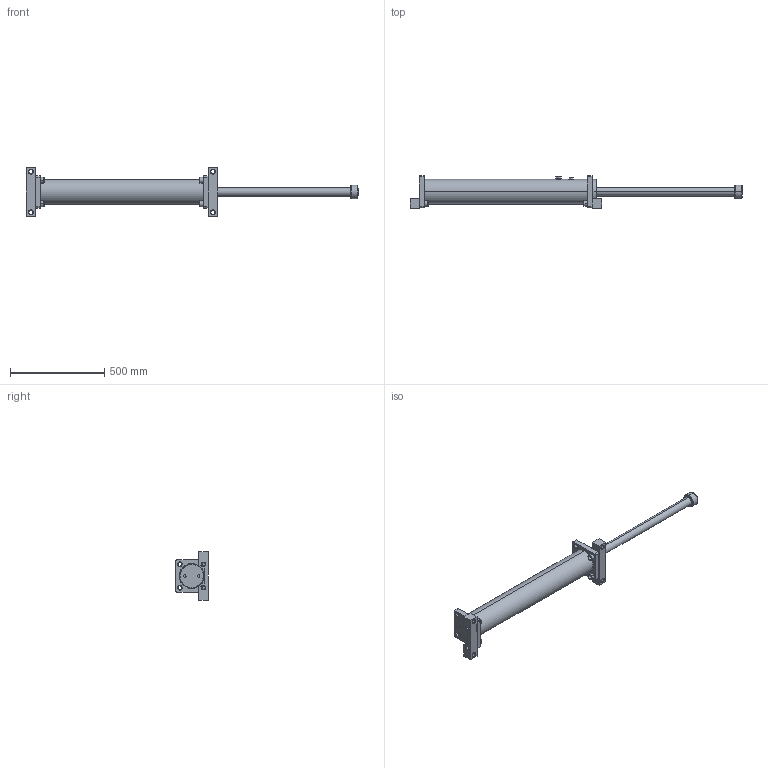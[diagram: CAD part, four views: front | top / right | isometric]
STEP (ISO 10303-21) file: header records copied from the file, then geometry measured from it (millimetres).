
FILE_DESCRIPTION (( 'STEP AP214' ), '1' );
FILE_NAME ('LDD3.0X28.STEP', '2019-01-16T07:40:30', ( 'user' ), ( 'Microsoft' ), 'SwSTEP 2.0', 'SolidWorks 2016', '' );
FILE_SCHEMA (( 'AUTOMOTIVE_DESIGN' ));
Length unit declared in the file: inch
Products named in the file (1): LDD3.0X28
Bounding box: 1757 x 172.5 x 255 mm (x, y, z)
Surface area: 796351.9 mm2 (no closed solid volume)
Topology: 0 solids, 21 shells, 275 faces, 739 edges, 493 vertices
Faces by surface type: plane 107, cylinder 86, cone 52, bspline 30
Entity records: 14659 total; most frequent: CARTESIAN_POINT 7812, DIRECTION 1428, ORIENTED_EDGE 1338, EDGE_CURVE 739, AXIS2_PLACEMENT_3D 540, VERTEX_POINT 493, LINE 348, VECTOR 348
